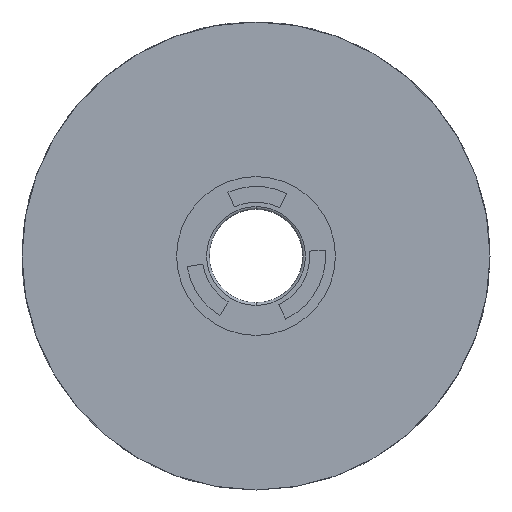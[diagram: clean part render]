
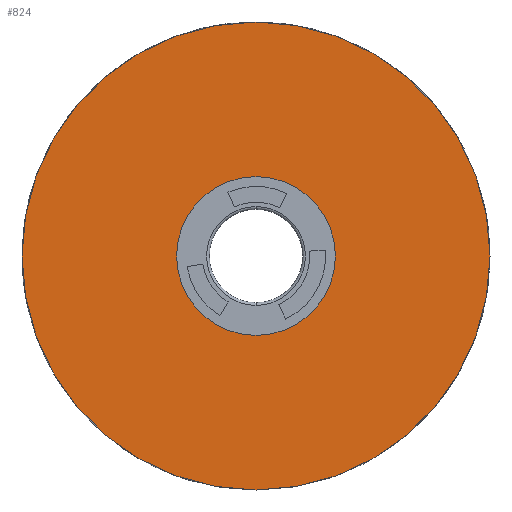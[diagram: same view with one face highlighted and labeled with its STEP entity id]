
A CAD part, front view. The second image highlights one B-rep face of the part: STEP entity #824.
In plain terms, the highlighted planar face has unit normal (0, -1, 0).
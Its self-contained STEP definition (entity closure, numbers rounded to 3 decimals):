
#100 = EDGE_CURVE ( 'NONE', #976, #1175, #2320, .T. ) ;
#137 = AXIS2_PLACEMENT_3D ( 'NONE', #2888, #1697, #1715 ) ;
#167 = CARTESIAN_POINT ( 'NONE',  ( 0., -9.45, -14.25 ) ) ;
#261 = DIRECTION ( 'NONE',  ( 0., -1., 0. ) ) ;
#270 = FACE_OUTER_BOUND ( 'NONE', #2336, .T. ) ;
#294 = CARTESIAN_POINT ( 'NONE',  ( 0., -9.45, 0. ) ) ;
#381 = ORIENTED_EDGE ( 'NONE', *, *, #3000, .T. ) ;
#417 = DIRECTION ( 'NONE',  ( 0., -1., 0. ) ) ;
#427 = VERTEX_POINT ( 'NONE', #1471 ) ;
#657 = DIRECTION ( 'NONE',  ( 0., -1., 0. ) ) ;
#753 = VERTEX_POINT ( 'NONE', #167 ) ;
#824 = ADVANCED_FACE ( 'NONE', ( #2442, #270 ), #2195, .T. ) ;
#841 = CIRCLE ( 'NONE', #137, 14.25 ) ;
#871 = EDGE_CURVE ( 'NONE', #427, #753, #841, .T. ) ;
#976 = VERTEX_POINT ( 'NONE', #1257 ) ;
#1024 = ORIENTED_EDGE ( 'NONE', *, *, #100, .T. ) ;
#1120 = DIRECTION ( 'NONE',  ( 0., 0., -1. ) ) ;
#1175 = VERTEX_POINT ( 'NONE', #3067 ) ;
#1239 = CARTESIAN_POINT ( 'NONE',  ( 0., -9.45, -8.375 ) ) ;
#1257 = CARTESIAN_POINT ( 'NONE',  ( 0., -9.45, -42. ) ) ;
#1344 = CARTESIAN_POINT ( 'NONE',  ( 0., -9.45, 0. ) ) ;
#1394 = EDGE_CURVE ( 'NONE', #753, #427, #1562, .T. ) ;
#1471 = CARTESIAN_POINT ( 'NONE',  ( 0., -9.45, 14.25 ) ) ;
#1482 = DIRECTION ( 'NONE',  ( 0., 0., -1. ) ) ;
#1562 = CIRCLE ( 'NONE', #2822, 14.25 ) ;
#1662 = AXIS2_PLACEMENT_3D ( 'NONE', #294, #261, #2467 ) ;
#1697 = DIRECTION ( 'NONE',  ( 0., -1., 0. ) ) ;
#1698 = EDGE_LOOP ( 'NONE', ( #2483, #2080 ) ) ;
#1715 = DIRECTION ( 'NONE',  ( 0., 0., -1. ) ) ;
#1751 = AXIS2_PLACEMENT_3D ( 'NONE', #1239, #2389, #1482 ) ;
#2080 = ORIENTED_EDGE ( 'NONE', *, *, #871, .F. ) ;
#2098 = CIRCLE ( 'NONE', #2509, 42. ) ;
#2195 = PLANE ( 'NONE',  #1751 ) ;
#2320 = CIRCLE ( 'NONE', #1662, 42. ) ;
#2336 = EDGE_LOOP ( 'NONE', ( #1024, #381 ) ) ;
#2389 = DIRECTION ( 'NONE',  ( 0., -1., 0. ) ) ;
#2442 = FACE_BOUND ( 'NONE', #1698, .T. ) ;
#2467 = DIRECTION ( 'NONE',  ( 0., 0., -1. ) ) ;
#2483 = ORIENTED_EDGE ( 'NONE', *, *, #1394, .F. ) ;
#2509 = AXIS2_PLACEMENT_3D ( 'NONE', #2551, #657, #1120 ) ;
#2551 = CARTESIAN_POINT ( 'NONE',  ( 0., -9.45, 0. ) ) ;
#2822 = AXIS2_PLACEMENT_3D ( 'NONE', #1344, #417, #2846 ) ;
#2846 = DIRECTION ( 'NONE',  ( 0., 0., -1. ) ) ;
#2888 = CARTESIAN_POINT ( 'NONE',  ( 0., -9.45, 0. ) ) ;
#3000 = EDGE_CURVE ( 'NONE', #1175, #976, #2098, .T. ) ;
#3067 = CARTESIAN_POINT ( 'NONE',  ( 0., -9.45, 42. ) ) ;
